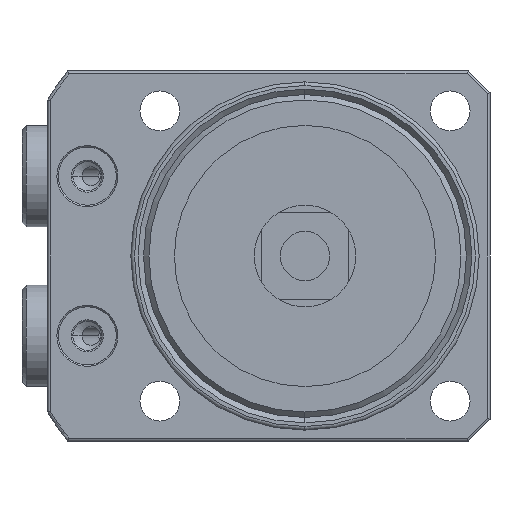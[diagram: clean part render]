
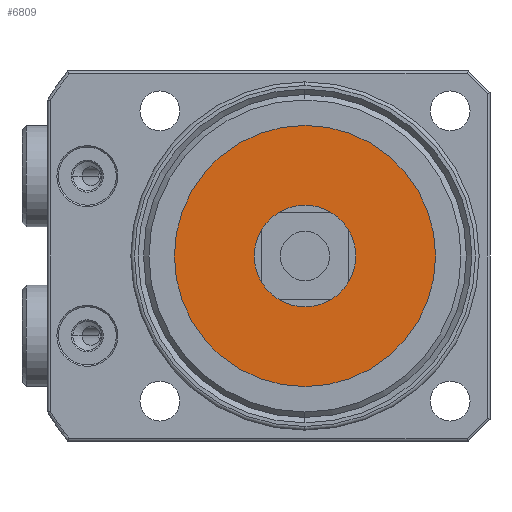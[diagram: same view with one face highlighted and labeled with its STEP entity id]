
A CAD part, front view. The second image highlights one B-rep face of the part: STEP entity #6809.
In plain terms, the highlighted planar face has unit normal (0, -1, 0).
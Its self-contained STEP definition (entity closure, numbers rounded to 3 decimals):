
#435 = DIRECTION ( 'NONE',  ( 0., -1., 0. ) ) ;
#1046 = AXIS2_PLACEMENT_3D ( 'NONE', #1910, #6336, #2545 ) ;
#1067 = CARTESIAN_POINT ( 'NONE',  ( 0., -7., 0. ) ) ;
#1130 = ORIENTED_EDGE ( 'NONE', *, *, #4323, .T. ) ;
#1903 = VERTEX_POINT ( 'NONE', #2934 ) ;
#1910 = CARTESIAN_POINT ( 'NONE',  ( 0., -7., 0. ) ) ;
#2034 = AXIS2_PLACEMENT_3D ( 'NONE', #4213, #435, #4855 ) ;
#2318 = PLANE ( 'NONE',  #5839 ) ;
#2545 = DIRECTION ( 'NONE',  ( 0., 0., -1. ) ) ;
#2664 = EDGE_LOOP ( 'NONE', ( #1130, #5216 ) ) ;
#2865 = VERTEX_POINT ( 'NONE', #6881 ) ;
#2934 = CARTESIAN_POINT ( 'NONE',  ( 0., -7., 18. ) ) ;
#2967 = DIRECTION ( 'NONE',  ( 0., -1., 0. ) ) ;
#3632 = DIRECTION ( 'NONE',  ( 0., 0., -1. ) ) ;
#4150 = EDGE_CURVE ( 'NONE', #2865, #1903, #7976, .T. ) ;
#4213 = CARTESIAN_POINT ( 'NONE',  ( 0., -7., 0. ) ) ;
#4323 = EDGE_CURVE ( 'NONE', #1903, #2865, #4824, .T. ) ;
#4824 = CIRCLE ( 'NONE', #1046, 18. ) ;
#4855 = DIRECTION ( 'NONE',  ( 0., 0., -1. ) ) ;
#5216 = ORIENTED_EDGE ( 'NONE', *, *, #4150, .T. ) ;
#5839 = AXIS2_PLACEMENT_3D ( 'NONE', #1067, #2967, #3632 ) ;
#6336 = DIRECTION ( 'NONE',  ( 0., -1., 0. ) ) ;
#6809 = ADVANCED_FACE ( 'NONE', ( #7080 ), #2318, .T. ) ;
#6881 = CARTESIAN_POINT ( 'NONE',  ( 0., -7., -18. ) ) ;
#7080 = FACE_OUTER_BOUND ( 'NONE', #2664, .T. ) ;
#7976 = CIRCLE ( 'NONE', #2034, 18. ) ;
